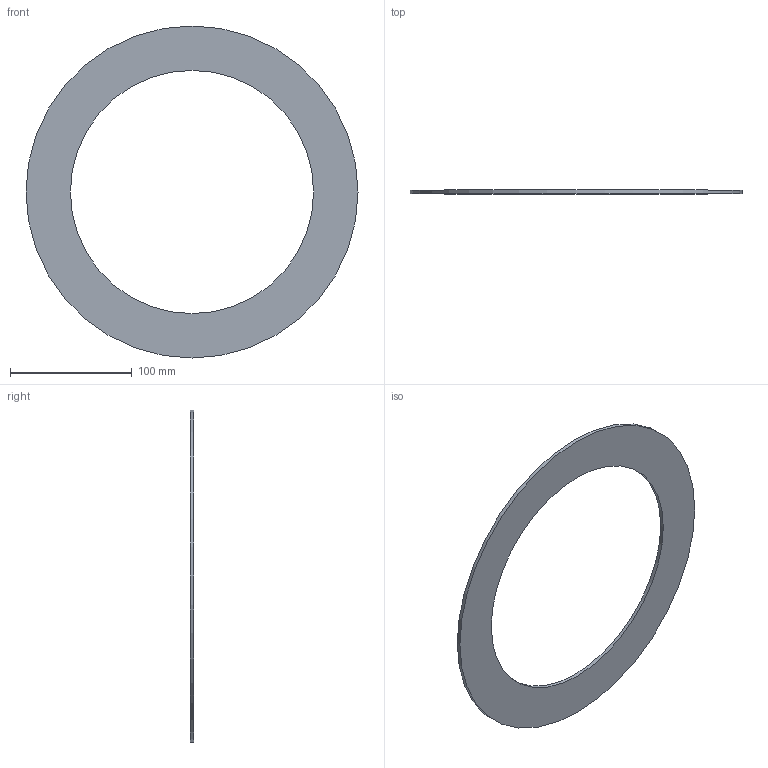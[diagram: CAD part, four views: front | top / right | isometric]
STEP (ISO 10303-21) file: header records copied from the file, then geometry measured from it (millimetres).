
FILE_DESCRIPTION(/* description */ ('Unknown'),/* implementation_level */ '2;1');
FILE_NAME(/* name */ 'GUA.225B',/* time_stamp */ '2021-04-01T12:31:14+02:00',/* author */ ('Unknown'),/* organization */ ('Unknown'),/* preprocessor_version */ 'ST-DEVELOPER v16.7',/* originating_system */ 'Solid Edge',/* authorisation */ 'Unknown');
FILE_SCHEMA (('AUTOMOTIVE_DESIGN {1 0 10303 214 3 1 1}'));
Length unit declared in the file: millimetre
Products named in the file (1): GUA.225B
Bounding box: 273 x 3 x 273 mm (x, y, z)
Volume: 81357 mm3; surface area: 58695.9 mm2
Topology: 1 solids, 1 shells, 4 faces, 6 edges, 4 vertices
Faces by surface type: cylinder 2, plane 2
Full cylindrical faces by diameter (mm): 200 x1, 273 x1
Entity records: 118 total; most frequent: DIRECTION 18, CARTESIAN_POINT 13, AXIS2_PLACEMENT_3D 9, ORIENTED_EDGE 8, EDGE_LOOP 8, FACE_BOUND 8, EDGE_CURVE 4, VERTEX_POINT 4
